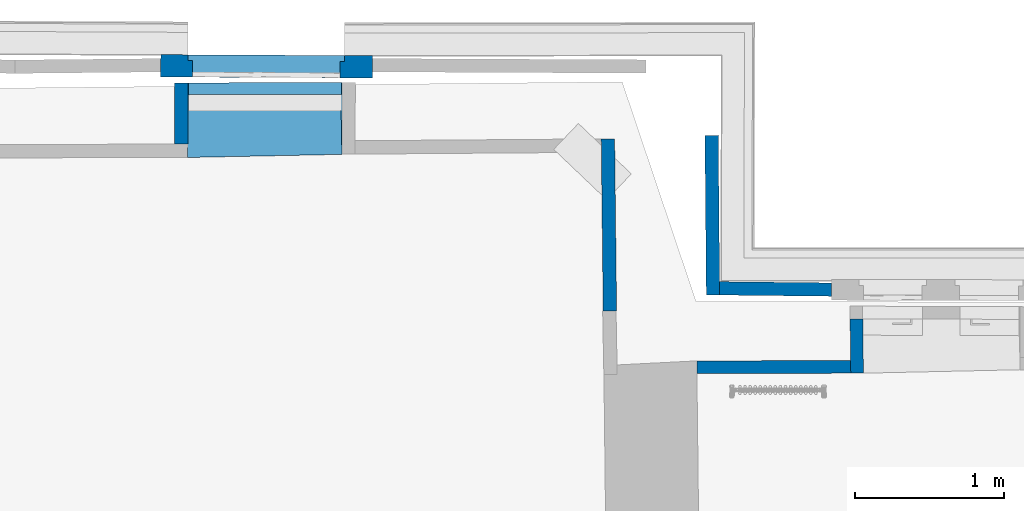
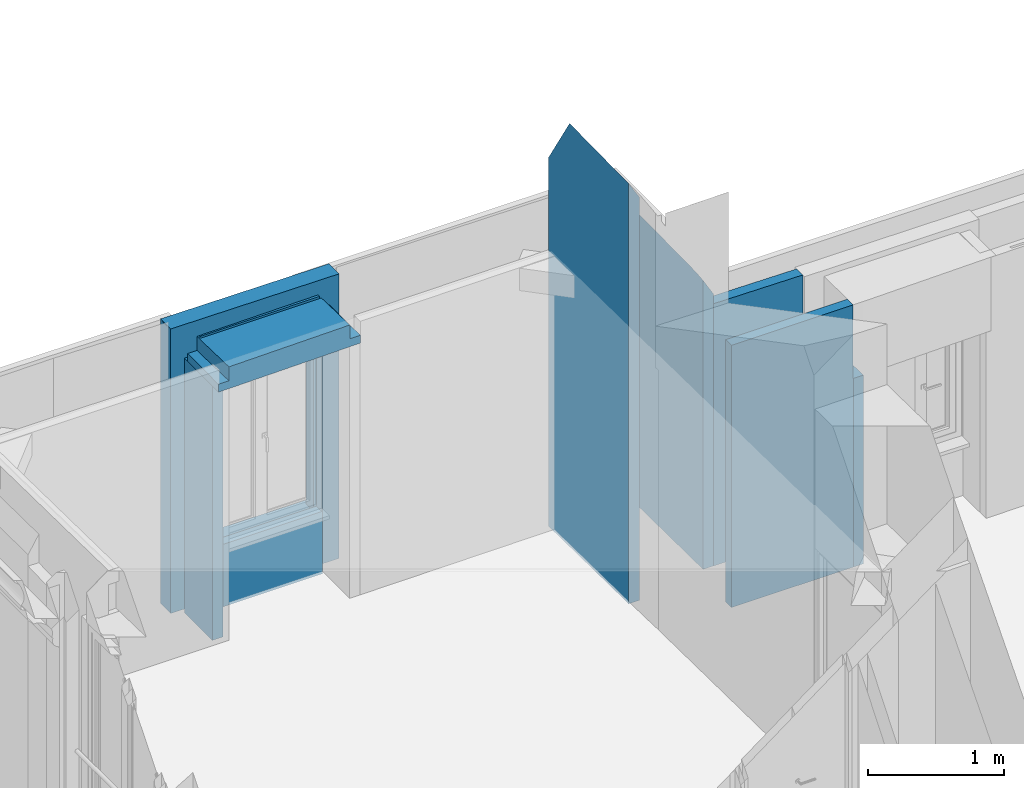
# One storey, part 20 of 72: 9 walls, 2 openings.
"""IFC2X3 building model written with IfcOpenShell, lengths in centimetres."""

import ifcopenshell
import ifcopenshell.guid

model = None  # the IFC model being written
_history = None  # IfcOwnerHistory: only IFC2X3 demands one
_inside = {}  # id of a spatial element -> (the spatial element, [elements in it])
_under = {}  # id of a project, library or spatial element -> (it, [spatial elements below it])
_declared = {}  # id of a project -> (the project, [libraries it declares])
_typed = {}  # id of a type object -> (the type object, [elements of that type])
_made_of = {}  # id of a material, layer set ... -> (it, [elements and type objects made of it])


def new_model(schema):
    """Start an empty IFC model of exactly this schema.

    Asked for "IFC4X3", IfcOpenShell would pick the latest addendum, in which some entities
    have other attributes; the version numbers below select the first issue.
    IFC2X3 requires an IfcOwnerHistory on every rooted entity: one is made here for all.
    """
    global model, _history
    if schema == "IFC4X3":
        model = ifcopenshell.file(schema_version=(4, 3, 0, 0))
    else:
        model = ifcopenshell.file(schema=schema)
    _inside.clear()
    _under.clear()
    _declared.clear()
    _typed.clear()
    _made_of.clear()
    _history = None
    if model.schema == "IFC2X3":
        org = make("IfcOrganization", Name="unknown")
        user = make(
            "IfcPersonAndOrganization",
            ThePerson=make("IfcPerson", FamilyName="unknown"),
            TheOrganization=org,
        )
        app = make(
            "IfcApplication",
            ApplicationDeveloper=org,
            Version="unknown",
            ApplicationFullName="unknown",
            ApplicationIdentifier="unknown",
        )
        _history = make(
            "IfcOwnerHistory",
            OwningUser=user,
            OwningApplication=app,
            ChangeAction="ADDED",
            CreationDate=0,
        )
    return model


def make(cls, **values):
    """One entity of the class cls with the attributes given. An attribute that is None is left unset."""
    return model.create_entity(
        cls, **{name: value for name, value in values.items() if value is not None}
    )


def entity(cls, *values):
    """Any entity or typed value of the class cls, its attributes in the order of the schema. None: left unset."""
    e = model.create_entity(cls)
    for i, value in enumerate(values):
        if value is not None:
            e[i] = value
    return e


def rooted(cls, **values):
    """An entity with a GlobalId (a new one), such as an element, a storey or a relation."""
    return make(cls, GlobalId=ifcopenshell.guid.new(), OwnerHistory=_history, **values)


def si_unit(unit_type, name, prefix=None):
    """IfcSIUnit, for example si_unit("LENGTHUNIT", "METRE", prefix="MILLI")."""
    return make("IfcSIUnit", UnitType=unit_type, Prefix=prefix, Name=name)


def converted_unit(unit_type, name, factor, base, dimensions=None, offset=None):
    """IfcConversionBasedUnit, such as the inch: factor (a typed value) times the base unit."""
    return make(
        "IfcConversionBasedUnit"
        if offset is None
        else "IfcConversionBasedUnitWithOffset",
        ConversionOffset=offset,
        Dimensions=None
        if dimensions is None
        else entity("IfcDimensionalExponents", *dimensions),
        UnitType=unit_type,
        Name=name,
        ConversionFactor=make(
            "IfcMeasureWithUnit", ValueComponent=factor, UnitComponent=base
        ),
    )


def assignment(units):
    """IfcUnitAssignment: the units of a project."""
    return None if units is None else make("IfcUnitAssignment", Units=units)


def point(xyz):
    """IfcCartesianPoint."""
    return None if xyz is None else make("IfcCartesianPoint", Coordinates=xyz)


def direction(xyz):
    """IfcDirection."""
    return None if xyz is None else make("IfcDirection", DirectionRatios=xyz)


def frame(location, z_axis=None, x_axis=None):
    """IfcAxis2Placement3D, a coordinate frame: its origin and axes. An axis left out is left unset."""
    return make(
        "IfcAxis2Placement3D",
        Location=point(location),
        Axis=direction(z_axis),
        RefDirection=direction(x_axis),
    )


def origin():
    """The frame at (0, 0, 0) with its axes left unset."""
    return frame((0.0, 0.0, 0.0))


def origin_with_axes():
    """The frame at (0, 0, 0) with the z axis (0, 0, 1) and the x axis (1, 0, 0) written out."""
    return frame((0.0, 0.0, 0.0), z_axis=(0.0, 0.0, 1.0), x_axis=(1.0, 0.0, 0.0))


def place(relative_to, where):
    """IfcLocalPlacement: puts the frame where relative to a parent placement (None: the world)."""
    return make(
        "IfcLocalPlacement", PlacementRelTo=relative_to, RelativePlacement=where
    )


def context(
    kind, dimensions, precision=None, world=None, true_north=None, identifier=None
):
    """IfcGeometricRepresentationContext, for example the 3D "Model" context."""
    return make(
        "IfcGeometricRepresentationContext",
        ContextIdentifier=identifier,
        ContextType=kind,
        CoordinateSpaceDimension=dimensions,
        Precision=precision,
        WorldCoordinateSystem=world,
        TrueNorth=true_north,
    )


def subcontext(parent, identifier, kind, view, scale=None):
    """IfcGeometricRepresentationSubContext, for example "Body" below "Model"."""
    return make(
        "IfcGeometricRepresentationSubContext",
        ContextIdentifier=identifier,
        ContextType=kind,
        ParentContext=parent,
        TargetScale=scale,
        TargetView=view,
    )


def project(units=None, contexts=None):
    """IfcProject with its units and contexts."""
    return rooted(
        "IfcProject",
        Name="project",
        RepresentationContexts=contexts,
        UnitsInContext=assignment(units),
    )


def spatial(cls, under=None, at=None, **own):
    """A site, building, storey or space (cls), placed at a placement, below another one or the project."""
    s = rooted(cls, ObjectPlacement=at, **own)
    if under is not None:
        _under.setdefault(under.id(), (under, []))[1].append(s)
    return s


def polyline(points):
    """IfcPolyline through the points."""
    return make("IfcPolyline", Points=[point(p) for p in points])


def outline(outer, holes=None, kind="AREA"):
    """IfcArbitraryClosedProfileDef: a profile drawn as a closed curve; with holes, ...WithVoids."""
    if holes is None:
        return make("IfcArbitraryClosedProfileDef", ProfileType=kind, OuterCurve=outer)
    return make(
        "IfcArbitraryProfileDefWithVoids",
        ProfileType=kind,
        OuterCurve=outer,
        InnerCurves=holes,
    )


def extrude(swept, where, along, depth):
    """IfcExtrudedAreaSolid: the profile swept, set in the frame where, extruded along a direction by depth."""
    return make(
        "IfcExtrudedAreaSolid",
        SweptArea=swept,
        Position=where,
        ExtrudedDirection=direction(along),
        Depth=depth,
    )


def clip(a, b, op="DIFFERENCE"):
    """IfcBooleanClippingResult: the solid a cut by the half space b."""
    return make(
        "IfcBooleanClippingResult", Operator=op, FirstOperand=a, SecondOperand=b
    )


def bounded_halfspace(plane, agree, where, boundary):
    """IfcPolygonalBoundedHalfSpace: a half space limited to a polygon's prism."""
    return make(
        "IfcPolygonalBoundedHalfSpace",
        BaseSurface=make("IfcPlane", Position=plane),
        AgreementFlag=agree,
        Position=where,
        PolygonalBoundary=boundary,
    )


def faces_of(points, faces, orient=None, outer=None):
    """IfcFace entities. A face is a list of loops; a loop is a list of indices into points, from 0.

    orient and outer hold one flag for each loop. By default every Orientation is true, the
    first loop of a face is its IfcFaceOuterBound and the others are IfcFaceBound.
    """
    made = []
    for i, loops in enumerate(faces):
        bounds = []
        for j, loop in enumerate(loops):
            is_outer = j == 0 if outer is None else outer[i][j]
            bounds.append(
                make(
                    "IfcFaceOuterBound" if is_outer else "IfcFaceBound",
                    Bound=make("IfcPolyLoop", Polygon=[points[k] for k in loop]),
                    Orientation=True if orient is None else orient[i][j],
                )
            )
        made.append(make("IfcFace", Bounds=bounds))
    return made


def faceted_brep(points, faces, orient=None, outer=None, voids=None):
    """IfcFacetedBrep: a solid bounded by flat faces; with voids (closed shells), ...WithVoids."""
    shared = [point(p) for p in points]
    hull = make("IfcClosedShell", CfsFaces=faces_of(shared, faces, orient, outer))
    if voids is None:
        return make("IfcFacetedBrep", Outer=hull)
    return make(
        "IfcFacetedBrepWithVoids",
        Outer=hull,
        Voids=[
            make(cls, CfsFaces=faces_of(shared, fs, o, b)) for cls, fs, o, b in voids
        ],
    )


def shape(context_of_items, identifier, shape_type, items):
    """IfcShapeRepresentation: the items that make up one representation, for example the "Body"."""
    return make(
        "IfcShapeRepresentation",
        ContextOfItems=context_of_items,
        RepresentationIdentifier=identifier,
        RepresentationType=shape_type,
        Items=items,
    )


def material(Name=None, Category=None):
    """IfcMaterial."""
    return make("IfcMaterial", Name=Name, Category=Category)


def layer(
    of_material, thickness, ventilated=None, Name=None, Category=None, Priority=None
):
    """IfcMaterialLayer: one layer of a wall or slab, of a material (None: an air gap)."""
    return make(
        "IfcMaterialLayer",
        Material=of_material,
        LayerThickness=thickness,
        IsVentilated=ventilated,
        Name=Name,
        Category=Category,
        Priority=Priority,
    )


def layer_set(layers, Name=None):
    """IfcMaterialLayerSet."""
    return make("IfcMaterialLayerSet", MaterialLayers=layers, LayerSetName=Name)


def layer_usage(for_layer_set, set_direction, sense, offset, extent=None):
    """IfcMaterialLayerSetUsage: how a layer set lies in its element."""
    return make(
        "IfcMaterialLayerSetUsage",
        ForLayerSet=for_layer_set,
        LayerSetDirection=set_direction,
        DirectionSense=sense,
        OffsetFromReferenceLine=offset,
        ReferenceExtent=extent,
    )


def made_of(thing, what):
    """Note that an element or type object is made of a material, layer set ...; save() writes the relation."""
    if what is not None:
        _made_of.setdefault(what.id(), (what, []))[1].append(thing)
    return thing


def type_object(cls, material=None, **own):
    """A type object (cls), such as IfcWallType, which elements share."""
    return made_of(rooted(cls, **own), material)


def element(
    cls,
    number,
    at=None,
    inside=None,
    cuts=None,
    type_object=None,
    material=None,
    context=None,
    identifier="Body",
    shape_type=None,
    held_by="IfcProductDefinitionShape",
    body=None,
    shapes=None,
    **own,
):
    """One element of the class cls, such as IfcWall. Its Tag is "e" and its number.

    at: its placement. inside: the storey or other place that contains it. cuts: it is an
    opening in that element (IfcRelVoidsElement). A single representation is given by context,
    identifier, shape_type and body (its items); several are given by shapes. held_by: the class
    of the entity that holds the representations. save() writes the other relations.
    """
    e = rooted(cls, Tag="e%d" % number, ObjectPlacement=at, **own)
    if body is not None:
        shapes = [shape(context, identifier, shape_type, body)]
    if shapes is not None:
        e.Representation = make(held_by, Representations=shapes)
    if inside is not None:
        _inside.setdefault(inside.id(), (inside, []))[1].append(e)
    if cuts is not None:
        rooted(
            "IfcRelVoidsElement", RelatingBuildingElement=cuts, RelatedOpeningElement=e
        )
    if type_object is not None:
        _typed.setdefault(type_object.id(), (type_object, []))[1].append(e)
    return made_of(e, material)


def aggregate(whole, parts):
    """IfcRelAggregates: a whole, such as a stair, and the parts it consists of."""
    return rooted("IfcRelAggregates", RelatingObject=whole, RelatedObjects=parts)


def save(model, path):
    """Write the relations noted so far, then the file.

    IfcRelAggregates (storeys below a building ...), IfcRelContainedInSpatialStructure (elements
    in a storey), IfcRelDefinesByType, IfcRelAssociatesMaterial and IfcRelDeclares: one each for
    every whole, place, type object, material and project.
    """
    for whole, parts in _under.values():
        aggregate(whole, parts)
    for where, things in _inside.values():
        rooted(
            "IfcRelContainedInSpatialStructure",
            RelatedElements=things,
            RelatingStructure=where,
        )
    for kind, things in _typed.values():
        rooted("IfcRelDefinesByType", RelatedObjects=things, RelatingType=kind)
    for what, things in _made_of.values():
        rooted("IfcRelAssociatesMaterial", RelatedObjects=things, RelatingMaterial=what)
    for by, libraries in _declared.values():
        rooted("IfcRelDeclares", RelatingContext=by, RelatedDefinitions=libraries)
    model.write(path)


model = new_model("IFC2X3")

# Units and contexts
model_context = context("Model", 3, precision=0.0001, world=origin(), true_north=direction((0.225632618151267, 0.974212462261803, 0.0)))
body_context = subcontext(model_context, "Body", "Model", "MODEL_VIEW")
footprint_context = subcontext(model_context, "FootPrint", "Model", "MODEL_VIEW")
profile_context = subcontext(model_context, "Profile", "Model", "MODEL_VIEW")
ifc_project = project(units=[si_unit("LENGTHUNIT", "METRE", prefix="CENTI"), si_unit("AREAUNIT", "SQUARE_METRE", prefix="CENTI"), si_unit("VOLUMEUNIT", "CUBIC_METRE", prefix="CENTI"), converted_unit("PLANEANGLEUNIT", "DEGREE", entity("IfcRatioMeasure", 0.0174532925), si_unit("PLANEANGLEUNIT", "RADIAN"), dimensions=[0, 0, 0, 0, 0, 0, 0])], contexts=[model_context])

# Site, building, storey
site_placement = place(None, origin_with_axes())
site = spatial("IfcSite", under=ifc_project, at=site_placement, Name="Default Site", CompositionType="ELEMENT")
building_placement = place(site_placement, origin_with_axes())
building = spatial("IfcBuilding", under=site, at=building_placement, Name="Default Building", CompositionType="ELEMENT")
storey_placement = place(building_placement, frame((0.0, 0.0, 853.910374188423), z_axis=(0.0, 0.0, 1.0), x_axis=(1.0, 0.0, 0.0)))
storey = spatial("IfcBuildingStorey", under=building, at=storey_placement, Name="Niveau 2", CompositionType="ELEMENT", Elevation=853.910374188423)

# Walls
ifc_material = material(Name="<aucun>")
ifc_layer_1 = layer(ifc_material, 9.0)
ifc_layer_set_1 = layer_set([ifc_layer_1], Name="default")
ifc_layer_usage_1 = layer_usage(ifc_layer_set_1, "AXIS2", "POSITIVE", -4.5)
wall_type_1 = type_object("IfcWallType", Name="default 90", PredefinedType="NOTDEFINED", material=ifc_layer_set_1)
wall_1_placement = place(storey_placement, frame((-657.647290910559, 610.345330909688, -1.95399252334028e-11), z_axis=(0.0, 0.0, 1.0), x_axis=(-0.00887504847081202, 0.99996061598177, 0.0)))
solid = clip(clip(clip(clip(clip(clip(clip(clip(extrude(outline(polyline([(98.9597180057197, 4.49999999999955), (-8.25214002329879, 4.49999999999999), (-8.42849565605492, -4.33169566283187), (-8.43769498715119e-12, -4.49999999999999), (98.9597102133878, -4.50087796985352), (98.9597180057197, 4.49999999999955)])), frame((0.0, 0.0, 1.98951966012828e-11), z_axis=(0.0, 0.0, 1.0), x_axis=(1.0, 0.0, 0.0)), (0.0, 0.0, 1.0), 263.007986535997), bounded_halfspace(frame((98.9597180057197, 4.49999999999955, 263.007986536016), z_axis=(0.0142553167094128, 0.859652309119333, -0.510680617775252), x_axis=(0.999636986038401, -0.0239303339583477, -0.012378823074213)), True, frame((98.9597180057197, 4.49999999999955, 263.007986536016), z_axis=(0.0, 0.0, 1.0), x_axis=(1.0, 0.0, 0.0)), polyline([(-4.78474622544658, -1.77635683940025e-13), (0.0, -0.1145421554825), (0.0, -8.88178419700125e-14), (-4.78474622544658, -1.77635683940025e-13)]))), bounded_halfspace(frame((0.0, 4.4999999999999, 260.05604235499), z_axis=(0.0605136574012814, 0.86449621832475, -0.498983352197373), x_axis=(0.996067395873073, -0.0198899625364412, 0.0863373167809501)), True, frame((0.0, 4.4999999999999, 260.05604235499), z_axis=(0.0, 0.0, 1.0), x_axis=(1.0, 0.0, 0.0)), polyline([(-8.42849565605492, -8.83169566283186), (-0.0482915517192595, -8.99903569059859), (-3.90798504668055e-12, -4.20559899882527), (8.88178419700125e-14, -8.88178419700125e-14), (-8.25214002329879, 8.88178419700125e-14), (-8.42849565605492, -8.83169566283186)]))), bounded_halfspace(frame((98.9597180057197, -0.367436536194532, 254.814405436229), z_axis=(0.0142553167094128, 0.859652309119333, -0.510680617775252), x_axis=(-3.22918775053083e-15, 0.510732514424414, 0.859739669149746)), True, frame((98.9597180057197, -0.367436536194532, 254.814405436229), z_axis=(0.0, 0.0, 1.0), x_axis=(1.0, 0.0, 0.0)), polyline([(-0.0989295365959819, -4.13256346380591), (8.88178419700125e-14, -4.13256346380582), (0.0, 0.0), (-0.0989295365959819, -4.13256346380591)]))), bounded_halfspace(frame((94.1749717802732, 4.49999999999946, 262.874423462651), z_axis=(0.0142553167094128, 0.859652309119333, -0.510680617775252), x_axis=(-0.999610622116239, 3.1641356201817e-15, -0.0279034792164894)), True, frame((94.1749717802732, 4.49999999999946, 262.874423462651), z_axis=(0.0, 0.0, 1.0), x_axis=(1.0, 0.0, 0.0)), polyline([(-61.2306110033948, 1.77635683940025e-13), (4.78474622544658, -0.751308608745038), (4.78474622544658, -0.114542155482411), (0.0, -8.88178419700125e-14), (-61.2306110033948, 1.77635683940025e-13)]))), bounded_halfspace(frame((98.9597180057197, 3.74869139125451, 261.743273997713), z_axis=(0.0142553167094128, 0.859652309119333, -0.510680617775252), x_axis=(-0.999896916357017, 0.0113796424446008, -0.0087555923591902)), True, frame((98.9597180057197, 3.74869139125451, 261.743273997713), z_axis=(0.0, 0.0, 1.0), x_axis=(1.0, 0.0, 0.0)), polyline([(-96.9285839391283, 0.751308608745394), (-93.3032199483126, -6.13222398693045), (-4.89245640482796, -8.24869139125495), (-0.0989295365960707, -8.24869139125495), (-8.88178419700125e-14, -4.11612792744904), (0.0, -8.88178419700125e-14), (-66.0153572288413, 0.751308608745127), (-96.9285839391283, 0.751308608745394)]))), bounded_halfspace(frame((0.577281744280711, -4.13221907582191, 245.170601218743), z_axis=(0.0605136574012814, 0.86449621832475, -0.498983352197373), x_axis=(-3.07377387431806e-13, -0.499899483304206, -0.866083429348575)), True, frame((0.577281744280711, -4.13221907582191, 245.170601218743), z_axis=(0.0, 0.0, 1.0), x_axis=(1.0, 0.0, 0.0)), polyline([(-0.577281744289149, -0.367780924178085), (-0.00734402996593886, -0.367780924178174), (0.0, -8.88178419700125e-14), (-0.577281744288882, 0.00656993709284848), (-0.577281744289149, -0.367780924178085)]))), bounded_halfspace(frame((0.042369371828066, 4.4999999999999, 260.061180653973), z_axis=(0.0605136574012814, 0.86449621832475, -0.498983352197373), x_axis=(-4.51105298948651e-13, -0.499899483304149, -0.866083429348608)), True, frame((0.042369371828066, 4.4999999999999, 260.061180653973), z_axis=(0.0, 0.0, 1.0), x_axis=(1.0, 0.0, 0.0)), polyline([(-0.042369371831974, -4.20559899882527), (0.0, 0.0), (-0.0423693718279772, -8.88178419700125e-14), (-0.042369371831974, -4.20559899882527)]))), bounded_halfspace(frame((5.65642495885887, -2.3835308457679, 248.81611998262), z_axis=(0.0142553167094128, 0.859652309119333, -0.510680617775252), x_axis=(0.261337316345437, -0.496182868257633, -0.827952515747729)), True, frame((5.65642495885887, -2.3835308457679, 248.81611998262), z_axis=(0.0, 0.0, 1.0), x_axis=(1.0, 0.0, 0.0)), polyline([(0.0, 0.0), (1.11473491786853, -2.11646915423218), (88.4108366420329, -2.11646915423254), (0.0, 0.0)])))
element("IfcWallStandardCase", 1, at=wall_1_placement, inside=storey, type_object=wall_type_1, material=ifc_layer_usage_1, Name="Enveloppe 464646", context=body_context, shape_type="Clipping", body=[
    clip(clip(clip(clip(clip(solid, bounded_halfspace(frame((-8.17124146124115e-12, -4.12564913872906, 245.111974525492), z_axis=(0.0605136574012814, 0.86449621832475, -0.498983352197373), x_axis=(0.996067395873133, -0.0198899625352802, 0.0863373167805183)), True, frame((-8.17124146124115e-12, -4.12564913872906, 245.111974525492), z_axis=(0.0, 0.0, 1.0), x_axis=(1.0, 0.0, 0.0)), polyline([(-0.0482915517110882, -0.373386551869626), (-2.66453525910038e-13, -0.374350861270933), (0.0, 0.0), (-0.0445247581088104, 0.000506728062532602), (-0.0482915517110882, -0.373386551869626)]))), bounded_halfspace(frame((0.749654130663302, 4.4999999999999, 260.146955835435), z_axis=(0.0605136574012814, 0.86449621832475, -0.498983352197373), x_axis=(-0.992726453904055, -6.82266743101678e-15, -0.120391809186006)), True, frame((0.749654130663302, 4.4999999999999, 260.146955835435), z_axis=(0.0, 0.0, 1.0), x_axis=(1.0, 0.0, 0.0)), polyline([(-0.749654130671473, -8.62564913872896), (-0.172372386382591, -8.6322190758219), (8.88178419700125e-14, 0.0), (-0.707284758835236, 0.0), (-0.74965413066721, -4.20559899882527), (-0.749654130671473, -8.62564913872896)]))), bounded_halfspace(frame((-3.90798504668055e-12, 0.294401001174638, 252.769778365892), z_axis=(0.0605136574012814, 0.86449621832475, -0.498983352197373), x_axis=(4.88865024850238e-13, 0.499899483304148, 0.866083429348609)), True, frame((-3.90798504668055e-12, 0.294401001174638, 252.769778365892), z_axis=(0.0, 0.0, 1.0), x_axis=(1.0, 0.0, 0.0)), polyline([(-0.0445247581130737, -4.41954341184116), (-4.2632564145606e-12, -4.4200501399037), (0.0, 0.0), (-0.0445247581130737, -4.41954341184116)]))), bounded_halfspace(frame((2.03113406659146, 4.4999999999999, 260.302365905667), z_axis=(0.0605136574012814, 0.86449621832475, -0.498983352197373), x_axis=(0.99654746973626, -0.0238563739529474, 0.079523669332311)), True, frame((2.03113406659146, 4.4999999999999, 260.302365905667), z_axis=(0.0, 0.0, 1.0), x_axis=(1.0, 0.0, 0.0)), polyline([(-1.41652353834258, -6.7628347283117), (3.6253639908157, -6.88353259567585), (0.0, 0.0), (-1.28147993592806, 0.0), (-1.41652353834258, -6.7628347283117)]))), bounded_halfspace(frame((5.65642495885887, -2.3835308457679, 248.816197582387), z_axis=(0.0605136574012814, 0.86449621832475, -0.498983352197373), x_axis=(-0.00997128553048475, -0.499350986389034, -0.866342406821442)), True, frame((5.65642495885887, -2.3835308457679, 248.816197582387), z_axis=(0.0, 0.0, 1.0), x_axis=(1.0, 0.0, 0.0)), polyline([(-5.0864872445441, -2.11646915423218), (1.11473491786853, -2.11646915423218), (0.0, 0.0), (-5.04181443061, 0.120696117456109), (-5.0864872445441, -2.11646915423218)]))),
])
ifc_layer_usage_2 = layer_usage(ifc_layer_set_1, "AXIS2", "POSITIVE", -4.5)
wall_2_placement = place(storey_placement, frame((-578.065913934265, 605.622111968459, -1.95399252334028e-11), z_axis=(0.0, 0.0, 1.0), x_axis=(-0.999938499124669, 0.0110904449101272, 0.0)))
element("IfcWallStandardCase", 2, at=wall_2_placement, inside=storey, type_object=wall_type_1, material=ifc_layer_usage_2, Name="Enveloppe 464547", context=body_context, shape_type="SweptSolid", body=[
    extrude(outline(polyline([(75.1297621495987, 4.50000000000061), (-0.0792276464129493, 4.50000000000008), (-4.44089209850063e-13, -4.49999999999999), (75.1411406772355, -4.49999999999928), (75.1297621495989, -3.88187470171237), (75.1297621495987, 4.50000000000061)])), frame((0.0, 0.0, 1.97175609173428e-11), z_axis=(0.0, 0.0, 1.0), x_axis=(1.0, 0.0, 0.0)), (0.0, 0.0, 1.0), 234.999999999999),
])
ifc_layer_usage_3 = layer_usage(ifc_layer_set_1, "AXIS2", "POSITIVE", -4.5)
wall_3_placement = place(storey_placement, frame((-1015.104875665, 694.411959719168, 1.4210854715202e-12), z_axis=(0.0, 0.0, 1.0), x_axis=(0.00487993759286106, 0.999988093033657, 0.0)))
element("IfcWallStandardCase", 3, at=wall_3_placement, inside=storey, type_object=wall_type_1, material=ifc_layer_usage_3, Name="Enveloppe 172730", context=body_context, shape_type="SweptSolid", body=[
    extrude(outline(polyline([(8.96385182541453, 4.49999999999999), (9.02923943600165, -4.49999999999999), (50.1643165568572, -4.49999999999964), (50.0984366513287, 4.50000000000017), (8.96385182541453, 4.49999999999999)])), frame((0.0, 0.0, -1.06581410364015e-12), z_axis=(0.0, 0.0, 1.0), x_axis=(1.0, 0.0, 0.0)), (0.0, 0.0, 1.0), 228.0),
])
ifc_layer_usage_4 = layer_usage(ifc_layer_set_1, "AXIS2", "POSITIVE", -4.5)
wall_4_placement = place(storey_placement, frame((-726.877812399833, 591.180959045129, 1.4210854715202e-12), z_axis=(0.0, 0.0, 1.0), x_axis=(-0.0114771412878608, 0.999934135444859, 0.0)))
element("IfcWallStandardCase", 4, at=wall_4_placement, inside=storey, type_object=wall_type_1, material=ifc_layer_usage_4, Name="Enveloppe 166958", context=body_context, shape_type="Clipping", body=[
    clip(clip(clip(clip(clip(clip(extrude(outline(polyline([(115.777461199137, 4.50000000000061), (0.105708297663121, 4.50000000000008), (0.103051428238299, 4.87018297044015), (-0.0645929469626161, 4.86897975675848), (-8.88178419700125e-14, -4.50000000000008), (115.74248378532, -4.49999999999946), (115.777461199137, 4.50000000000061)])), frame((0.0, 0.0, -1.77635683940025e-13), z_axis=(0.0, 0.0, 1.0), x_axis=(1.0, 0.0, 0.0)), (0.0, 0.0, 1.0), 379.294191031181), bounded_halfspace(frame((85.0881290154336, 4.50000000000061, 379.296006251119), z_axis=(0.0164922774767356, 0.859612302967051, -0.510680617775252), x_axis=(0.00366609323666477, -0.510798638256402, -0.859692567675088)), True, frame((85.0881290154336, 4.50000000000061, 379.296006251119), z_axis=(0.0, 0.0, 1.0), x_axis=(1.0, 0.0, 0.0)), polyline([(-85.1527219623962, 0.368979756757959), (-85.1113273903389, -5.39854705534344), (5.70327910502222, -5.64900098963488), (0.0, 8.88178419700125e-14), (-84.9824207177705, -5.32907051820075e-13), (-84.9850775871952, 0.370182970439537), (-85.1527219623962, 0.368979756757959)]))), bounded_halfspace(frame((90.791408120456, -1.14900098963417, 369.969831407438), z_axis=(-0.849423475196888, 0.0131947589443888, -0.527546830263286), x_axis=(-0.527592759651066, -1.12132525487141e-14, 0.849497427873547)), True, frame((90.791408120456, -1.14900098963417, 369.969831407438), z_axis=(0.0, 0.0, 1.0), x_axis=(1.0, 0.0, 0.0)), polyline([(0.0, 0.0), (3.38319690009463, -3.35099901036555), (15.985127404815, -3.35099901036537), (15.985127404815, 5.6490009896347), (15.0600109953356, 5.6490009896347), (14.9942478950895, -0.0413520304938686), (0.0, 0.0)]))), bounded_halfspace(frame((114.852020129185, 4.5000000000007, 331.370203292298), z_axis=(-0.849423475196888, 0.0131947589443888, -0.527546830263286), x_axis=(-0.527592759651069, 3.39450689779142e-14, 0.849497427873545)), True, frame((114.852020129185, 4.5000000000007, 331.370203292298), z_axis=(0.0, 0.0, 1.0), x_axis=(1.0, 0.0, 0.0)), polyline([(-0.104012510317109, -9.00000000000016), (0.89046365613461, -9.00000000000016), (0.925441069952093, 0.0), (0.0, 8.88178419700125e-14), (-0.104012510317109, -9.00000000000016)]))), bounded_halfspace(frame((106.776535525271, 4.50000000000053, 344.372852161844), z_axis=(-0.849423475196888, 0.0131947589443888, -0.527546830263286), x_axis=(-0.52759275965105, -6.37684349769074e-15, 0.849497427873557)), True, frame((106.776535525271, 4.50000000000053, 344.372852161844), z_axis=(0.0, 0.0, 1.0), x_axis=(1.0, 0.0, 0.0)), polyline([(0.0, -9.00000000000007), (7.97147209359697, -8.99999999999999), (8.07548460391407, 2.66453525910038e-13), (0.0, 0.0), (0.0, -9.00000000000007)]))), bounded_halfspace(frame((85.0881290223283, 4.4999999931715, 379.294191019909), z_axis=(-0.849423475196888, 0.0131947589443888, -0.527546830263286), x_axis=(-0.527592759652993, -1.73525804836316e-10, 0.84949742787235)), True, frame((85.0881290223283, 4.4999999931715, 379.294191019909), z_axis=(0.0, 0.0, 1.0), x_axis=(1.0, 0.0, 0.0)), polyline([(-8.88178419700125e-14, 8.88178419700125e-14), (5.70327909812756, -5.64900098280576), (20.6975269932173, -5.69035301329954), (20.7632900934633, 6.82902623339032e-09), (-8.88178419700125e-14, 8.88178419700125e-14)]))), bounded_halfspace(frame((90.791408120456, -1.14900098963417, 369.971409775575), z_axis=(0.0164922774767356, 0.859612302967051, -0.510680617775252), x_axis=(-4.27557295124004e-14, -0.51075008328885, -0.859729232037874)), True, frame((90.791408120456, -1.14900098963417, 369.971409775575), z_axis=(0.0, 0.0, 1.0), x_axis=(1.0, 0.0, 0.0)), polyline([(-90.8146064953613, 0.25045393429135), (-90.791408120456, -3.350999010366), (3.38319689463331, -3.3509990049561), (0.0, 0.0), (-90.8146064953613, 0.25045393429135)]))),
])

# Wall, opening
ifc_layer_2 = layer(ifc_material, 15.0)
ifc_layer_set_2 = layer_set([ifc_layer_2], Name="default")
ifc_layer_usage_5 = layer_usage(ifc_layer_set_2, "AXIS2", "POSITIVE", -7.5)
wall_type_2 = type_object("IfcWallType", Name="default 150", PredefinedType="NOTDEFINED", material=ifc_layer_set_2)
wall_5_placement = place(storey_placement, frame((-886.392606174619, 755.315866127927, -1.95399252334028e-11), z_axis=(0.0, 0.0, 1.0), x_axis=(-0.999988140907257, 0.00487011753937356, 0.0)))
wall_5 = element("IfcWallStandardCase", 5, at=wall_5_placement, inside=storey, type_object=wall_type_2, material=ifc_layer_usage_5, Name="Enveloppe 461412", context=body_context, shape_type="Clipping", body=[
    clip(clip(extrude(outline(polyline([(142.469654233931, -4.86859628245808), (142.333810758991, 4.13037846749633), (142.333810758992, 7.50000000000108), (0.0, 7.50000000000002), (-2.26136140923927e-06, 3.4135244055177), (-0.0999999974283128, 3.41303739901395), (-0.0979589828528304, -5.58696236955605), (-2.21520650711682e-06, -5.5864853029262), (1.77635683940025e-13, -7.5000000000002), (142.333810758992, -7.49999999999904), (142.333810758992, -4.87064689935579), (142.469654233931, -4.86859628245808)])), frame((0.0, 0.0, 1.97175609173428e-11), z_axis=(0.0, 0.0, 1.0), x_axis=(1.0, 0.0, 0.0)), (0.0, 0.0, 1.0), 254.999999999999), bounded_halfspace(frame((142.469654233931, -4.86859628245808, 254.384625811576), z_axis=(0.0, 0.0, -1.0), x_axis=(-0.015093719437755, 0.999886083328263, 0.0)), True, frame((142.469654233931, -4.86859628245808, 254.384625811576), z_axis=(0.0, 0.0, 1.0), x_axis=(1.0, 0.0, 0.0)), polyline([(-0.135843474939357, -0.00205061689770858), (-1.77635683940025e-13, 0.0), (-0.135843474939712, 8.99897474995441), (-0.135843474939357, -0.00205061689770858)]))), bounded_halfspace(frame((-0.0999999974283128, 3.41303739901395, 251.166625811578), z_axis=(0.0, 0.0, -1.0), x_axis=(0.000226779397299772, -0.999999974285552, 0.0)), True, frame((-0.0999999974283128, 3.41303739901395, 251.166625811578), z_axis=(0.0, 0.0, 1.0), x_axis=(1.0, 0.0, 0.0)), polyline([(0.00204101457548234, -8.99999976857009), (0.0999999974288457, -8.99997755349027), (0.0999999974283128, 2.26779397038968e-05), (1.77635683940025e-13, 8.88178419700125e-14), (0.00204101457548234, -8.99999976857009)]))),
])
opening_1_placement = place(wall_5_placement, frame((18.8036360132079, 1.13686837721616e-13, 49.9752559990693), z_axis=(0.0, 0.0, 1.0), x_axis=(-1.0, -7.46191303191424e-15, 0.0)))
cartesian_point_1 = entity("IfcCartesianPoint", [0.0, 0.0, 176.512901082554])
cartesian_point_2 = entity("IfcCartesianPoint", [-105.202334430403, -7.50000000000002])
element("IfcOpeningElement", 6, at=opening_1_placement, cuts=wall_5, Name="Baie 743474", ObjectType="Opening", shapes=[
    shape(body_context, "Body", "Brep", [faceted_brep([(-2.9999565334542, -27.4999864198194, 176.51292938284), (-102.20233539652, -27.4999864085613, 176.51292938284), (-102.20233539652, -27.4999864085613, 2.04472929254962e-05), (-2.9999565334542, -27.4999864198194, 2.04472929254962e-05), (-1.22542507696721e-05, 27.4999885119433, 2.04472929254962e-05), (-105.202313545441, 27.4999885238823, 2.04472929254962e-05), (-105.202313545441, 27.4999885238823, 176.51292938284), (-1.22542507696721e-05, 27.4999885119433, 176.51292938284), (-2.99995652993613, 3.499993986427, 2.04472929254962e-05), (-2.99995652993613, 3.499993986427, 176.51292938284), (-2.99996343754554, 3.499993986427, 176.51292938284), (-2.99996343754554, 3.499993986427, 2.04472929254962e-05), (4.53435541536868e-05, 3.49999398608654, 2.04472929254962e-05), (4.53435541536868e-05, 3.49999398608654, 176.51292938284), (4.53435541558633e-05, 3.50001316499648, 176.51292938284), (4.53435541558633e-05, 3.50001316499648, 2.04472929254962e-05), (4.53462778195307e-05, 27.4999885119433, 2.04472929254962e-05), (4.53462778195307e-05, 27.4999885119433, 176.51292938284), (-102.20233539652, -27.4999822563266, 2.04472929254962e-05), (-102.202342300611, 3.49999814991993, 2.04472929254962e-05), (-105.202351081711, 3.49997897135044, 2.04472929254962e-05), (-105.202313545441, 27.5000024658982, 2.04472929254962e-05), (-102.20233539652, -27.4999822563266, 176.51292938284), (-102.202335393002, 3.49999814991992, 176.51292938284), (-102.202335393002, 3.49999814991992, 2.04472929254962e-05), (-102.202342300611, 3.49999814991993, 176.51292938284), (-105.202351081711, 3.49999815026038, 176.51292938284), (-105.202351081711, 3.49999815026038, 2.04472929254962e-05), (-105.202351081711, 3.49997897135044, 176.51292938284), (-105.202351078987, 27.5000024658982, 176.51292938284), (-105.202351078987, 27.5000024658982, 2.04472929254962e-05), (-105.202313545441, 27.5000024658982, 176.51292938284)], [[[0, 1, 2, 3]], [[4, 5, 6, 7]], [[0, 3, 8, 9]], [[10, 11, 12, 13]], [[14, 15, 16, 17]], [[3, 18, 19, 20, 21, 4, 15, 11]], [[18, 22, 23, 24]], [[19, 25, 26, 27]], [[20, 28, 29, 30]], [[10, 14, 7, 31, 28, 25, 22, 0]]])]),
    shape(profile_context, "Profile", "GeometricCurveSet", [entity("IfcGeometricCurveSet", [entity("IfcPolyline", [cartesian_point_1, entity("IfcCartesianPoint", [0.0, 0.0, 0.0]), entity("IfcCartesianPoint", [-105.202334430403, -8.88178419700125e-14, 0.0]), entity("IfcCartesianPoint", [-105.202334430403, -8.88178419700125e-14, 176.512901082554]), cartesian_point_1])])]),
    shape(footprint_context, "FootPrint", "GeometricCurveSet", [entity("IfcGeometricCurveSet", [entity("IfcPolyline", [cartesian_point_2, entity("IfcCartesianPoint", [0.0, -7.50000000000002]), entity("IfcCartesianPoint", [0.0, 7.50000000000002]), entity("IfcCartesianPoint", [-105.202334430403, 7.49999999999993]), cartesian_point_2])])]),
])

ifc_layer_3 = layer(ifc_material, 8.0)
ifc_layer_set_3 = layer_set([ifc_layer_3], Name="default")
ifc_layer_usage_6 = layer_usage(ifc_layer_set_3, "AXIS2", "POSITIVE", -4.0)
wall_type_3 = type_object("IfcWallType", Name="default 80", PredefinedType="NOTDEFINED", material=ifc_layer_set_3)
wall_6_placement = place(storey_placement, frame((-1010.4089299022, 740.553588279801, 1.4210854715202e-12), z_axis=(0.0, 0.0, 1.0), x_axis=(0.999997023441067, 0.00243989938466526, 0.0)))
wall_6 = element("IfcWallStandardCase", 7, at=wall_6_placement, inside=storey, type_object=wall_type_3, material=ifc_layer_usage_6, Name="Enveloppe 172745", context=body_context, shape_type="SweptSolid", body=[
    extrude(outline(polyline([(-7.54139151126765e-07, -4.0), (103.400349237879, -4.00000000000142), (103.430184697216, 3.99999999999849), (0.0585591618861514, 4.00000000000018), (-7.54139151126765e-07, -4.0)])), frame((0.0, 0.0, -5.32907051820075e-13), z_axis=(0.0, 0.0, 1.0), x_axis=(1.0, 0.0, 0.0)), (0.0, 0.0, 1.0), 228.0),
])
opening_2_placement = place(wall_6_placement, frame((0.464590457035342, 1.13686837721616e-13, 58.9999999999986), z_axis=(0.0, 0.0, 1.0), x_axis=(-1.0, 1.44970840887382e-14, 0.0)))
cartesian_point_3 = entity("IfcCartesianPoint", [0.0, 0.0, 165.0])
cartesian_point_4 = entity("IfcCartesianPoint", [-102.647776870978, -4.0])
element("IfcOpeningElement", 8, at=opening_2_placement, cuts=wall_6, Name="4294966524_11", ObjectType="Opening", shapes=[
    shape(body_context, "Body", "SweptSolid", [extrude(outline(polyline([(0.0, 165.0), (0.0, -2.99999999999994), (102.647776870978, -2.99999999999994), (102.647776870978, 165.0), (0.0, 165.0)])), frame((0.0, -14.0, 0.0), z_axis=(0.0, 1.0, 0.0), x_axis=(-1.0, 0.0, 0.0)), (0.0, 0.0, 1.0), 28.0)]),
    shape(profile_context, "Profile", "GeometricCurveSet", [entity("IfcGeometricCurveSet", [entity("IfcPolyline", [cartesian_point_3, entity("IfcCartesianPoint", [0.0, 0.0, 0.0]), entity("IfcCartesianPoint", [-102.647776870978, 0.0, 0.0]), entity("IfcCartesianPoint", [-102.647776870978, 0.0, 165.0]), cartesian_point_3])])]),
    shape(footprint_context, "FootPrint", "GeometricCurveSet", [entity("IfcGeometricCurveSet", [entity("IfcPolyline", [cartesian_point_4, entity("IfcCartesianPoint", [0.0, -3.99999999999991]), entity("IfcCartesianPoint", [-1.77635683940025e-13, 4.0]), entity("IfcCartesianPoint", [-102.647776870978, 4.0]), cartesian_point_4])])]),
])

# Walls
ifc_layer_4 = layer(ifc_material, 8.5)
ifc_layer_set_4 = layer_set([ifc_layer_4], Name="default")
ifc_layer_usage_7 = layer_usage(ifc_layer_set_4, "AXIS2", "POSITIVE", -4.25)
wall_type_4 = type_object("IfcWallType", Name="default 85", PredefinedType="NOTDEFINED", material=ifc_layer_set_4)
wall_7_placement = place(storey_placement, frame((-668.401074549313, 553.457523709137, 1.4210854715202e-12), z_axis=(0.0, 0.0, 1.0), x_axis=(0.999997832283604, 0.00208216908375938, 0.0)))
element("IfcWallStandardCase", 9, at=wall_7_placement, inside=storey, type_object=wall_type_4, material=ifc_layer_usage_7, Name="Enveloppe 167087", context=body_context, shape_type="Clipping", body=[
    clip(extrude(outline(polyline([(-0.0798253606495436, 4.246127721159), (-1.77635683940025e-13, -4.24999999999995), (103.397394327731, -4.25039311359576), (103.308594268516, 4.24979178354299), (-0.0798253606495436, 4.246127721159)])), frame((0.0, 0.0, -8.88178419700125e-13), z_axis=(0.0, 0.0, 1.0), x_axis=(1.0, 0.0, 0.0)), (0.0, 0.0, 1.0), 234.999999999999), bounded_halfspace(frame((103.308594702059, 4.25000000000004, 168.999999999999), z_axis=(0.0, 0.0, -1.0), x_axis=(-1.0, -5.03299225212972e-13, 0.0)), True, frame((103.308594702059, 4.25000000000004, 168.999999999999), z_axis=(0.0, 0.0, 1.0), x_axis=(1.0, 0.0, 0.0)), polyline([(-0.0999999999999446, -8.50000000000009), (0.0888004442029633, -8.49999999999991), (8.88178419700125e-14, 8.88178419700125e-14), (-0.100000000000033, -8.88178419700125e-14), (-0.0999999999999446, -8.50000000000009)]))),
])
ifc_layer_usage_8 = layer_usage(ifc_layer_set_4, "AXIS2", "POSITIVE", -4.25)
wall_8_placement = place(storey_placement, frame((-560.744275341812, 549.38727674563, 1.4210854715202e-12), z_axis=(0.0, 0.0, 1.0), x_axis=(-0.0125285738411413, 0.999921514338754, 0.0)))
element("IfcWallStandardCase", 10, at=wall_8_placement, inside=storey, type_object=wall_type_4, material=ifc_layer_usage_8, Name="Enveloppe 166903", context=body_context, shape_type="SweptSolid", body=[
    extrude(outline(polyline([(36.6775583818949, 4.2499999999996), (0.0888004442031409, 4.24999999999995), (0.0, -4.24999999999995), (36.5400118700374, -4.25000000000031), (36.6775583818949, 4.2499999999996)])), frame((0.0, 0.0, -5.32907051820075e-13), z_axis=(0.0, 0.0, 1.0), x_axis=(1.0, 0.0, 0.0)), (0.0, 0.0, 1.0), 169.0),
])
ifc_layer_5 = layer(ifc_material, 45.0)
ifc_layer_set_5 = layer_set([ifc_layer_5], Name="default")
ifc_layer_usage_9 = layer_usage(ifc_layer_set_5, "AXIS2", "POSITIVE", -22.5)
wall_type_5 = type_object("IfcWallType", Name="default 450", PredefinedType="NOTDEFINED", material=ifc_layer_set_5)
wall_9_placement = place(storey_placement, frame((-1011.05644008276, 716.880493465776, 228.000000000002), z_axis=(0.0, 0.0, 1.0), x_axis=(0.999797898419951, 0.0201037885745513, 0.0)))
element("IfcWallStandardCase", 11, at=wall_9_placement, inside=storey, type_object=wall_type_5, material=ifc_layer_usage_9, Name="Enveloppe 174079", context=body_context, shape_type="Clipping", body=[
    clip(clip(clip(clip(clip(clip(clip(clip(extrude(outline(polyline([(-8.87396040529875, -13.3073566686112), (-9.03343149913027, -22.3059437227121), (0.000682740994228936, -22.4660460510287), (-1.77635683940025e-13, -22.4999999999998), (103.676204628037, -22.4999999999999), (103.676204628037, -22.3931381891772), (112.7557677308, -22.5067667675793), (112.868376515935, -13.5082304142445), (112.768399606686, -13.5062200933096), (113.538862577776, 22.5002200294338), (103.576204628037, 22.5002222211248), (0.0, 23.0529874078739), (-7.86527590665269, 23.052987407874), (-8.77398089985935, -13.3093670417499), (-8.87396040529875, -13.3073566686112)])), frame((0.0, 0.0, -1.77635683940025e-13), z_axis=(0.0, 0.0, 1.0), x_axis=(1.0, 0.0, 0.0)), (0.0, 0.0, 1.0), 19.499999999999), bounded_halfspace(frame((-1.77635683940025e-13, -22.4999999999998, 6.99999999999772), z_axis=(0.0, 0.0, 1.0), x_axis=(7.91509219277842e-12, 1.0, 0.0)), True, frame((-1.77635683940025e-13, -22.4999999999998, 6.99999999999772), z_axis=(0.0, 0.0, 1.0), x_axis=(1.0, 0.0, 0.0)), polyline([(0.0, 0.0), (3.5527136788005e-13, 0.0339676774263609), (1.91671791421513, -2.66453525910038e-13), (0.0, 0.0)]))), bounded_halfspace(frame((103.676204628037, -22.4999999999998, 6.99999999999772), z_axis=(0.0, 0.0, 1.0), x_axis=(-0.679024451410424, 0.734115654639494, 0.0)), True, frame((103.676204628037, -22.4999999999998, 6.99999999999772), z_axis=(0.0, 0.0, 1.0), x_axis=(1.0, 0.0, 0.0)), polyline([(-0.0999999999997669, 0.108113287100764), (0.0, 0.1068618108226), (0.0, 8.88178419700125e-14), (-0.0999999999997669, 0.108113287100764)]))), bounded_halfspace(frame((104.489355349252, 20.2828530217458, 6.00756440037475), z_axis=(0.0, 0.0, -1.0), x_axis=(-0.999900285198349, 0.014121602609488, 0.0)), True, frame((104.489355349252, 20.2828530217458, 6.00756440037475), z_axis=(0.0, 0.0, 1.0), x_axis=(1.0, 0.0, 0.0)), polyline([(-2.09422670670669, 0.0295767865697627), (-2.0727074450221, -2.41774179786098), (-0.0524983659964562, -2.45343299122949), (0.0, 0.0), (-2.09422670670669, 0.0295767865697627)]))), bounded_halfspace(frame((102.41664790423, 17.8651112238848, 6.00756440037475), z_axis=(0.0, 0.0, -1.0), x_axis=(-0.00879265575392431, 0.999961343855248, 0.0)), True, frame((102.41664790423, 17.8651112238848, 6.00756440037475), z_axis=(0.0, 0.0, 1.0), x_axis=(1.0, 0.0, 0.0)), polyline([(-101.364007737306, 1.79080593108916), (0.0, 0.0), (-0.0215192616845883, 2.44731858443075), (-101.311852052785, 3.87784305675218), (-101.364007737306, 1.79080593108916)]))), bounded_halfspace(frame((-8.77397610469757, -13.3091285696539, 6.99999999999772), z_axis=(0.0, 0.0, -1.0), x_axis=(0.99984300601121, -0.0177190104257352, 0.0)), True, frame((-8.77397610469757, -13.3091285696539, 6.99999999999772), z_axis=(0.0, 0.0, 1.0), x_axis=(1.0, 0.0, 0.0)), polyline([(0.0, 0.0), (0.934703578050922, -0.0165646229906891), (0.775232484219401, -9.01515167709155), (8.77397610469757, -9.15690375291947), (8.77397610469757, 36.3621159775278), (0.908700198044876, 36.3621159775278), (0.0, 0.0)]))), bounded_halfspace(frame((112.768399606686, -13.5062200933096, 6.99999999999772), z_axis=(0.0, 0.0, -1.0), x_axis=(-0.0125137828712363, -0.999921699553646, 0.0)), True, frame((112.768399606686, -13.5062200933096, 6.99999999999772), z_axis=(0.0, 0.0, 1.0), x_axis=(1.0, 0.0, 0.0)), polyline([(-0.112624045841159, -8.99929529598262), (-0.012631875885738, -9.00054667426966), (0.099992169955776, -0.00125137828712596), (0.0, 0.0), (-0.112624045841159, -8.99929529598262)]))), bounded_halfspace(frame((-8.87396040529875, -13.3073566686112, 6.99999999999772), z_axis=(0.0, 0.0, -1.0), x_axis=(-0.0177190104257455, -0.99984300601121, 0.0)), True, frame((-8.87396040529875, -13.3073566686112, 6.99999999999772), z_axis=(0.0, 0.0, 1.0), x_axis=(1.0, 0.0, 0.0)), polyline([(-0.159471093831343, -8.99858705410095), (0.875216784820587, -9.01692357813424), (1.03468787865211, -0.0183365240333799), (0.0, 0.0), (-0.159471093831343, -8.99858705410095)]))), bounded_halfspace(frame((113.538862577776, 22.5002200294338, 6.99999999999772), z_axis=(0.0, 0.0, -1.0), x_axis=(-0.999999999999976, 2.19990584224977e-07, 0.0)), True, frame((113.538862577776, 22.5002200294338, 6.99999999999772), z_axis=(0.0, 0.0, 1.0), x_axis=(1.0, 0.0, 0.0)), polyline([(-9.86265794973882, -44.893358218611), (-0.88308701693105, -45.005735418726), (-0.770462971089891, -36.0064401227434), (0.0, -8.88178419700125e-14), (-9.86265794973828, 2.16969189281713e-06), (-9.86265794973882, -44.893358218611)]))),
])

save(model, "model.ifc")
